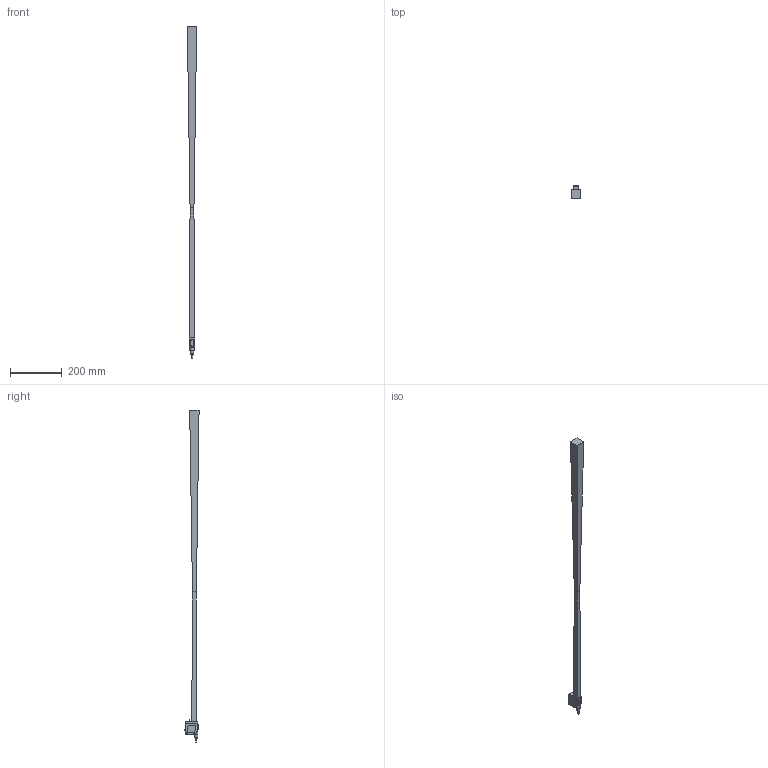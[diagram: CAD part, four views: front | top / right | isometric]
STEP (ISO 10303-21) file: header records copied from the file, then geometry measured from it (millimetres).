
FILE_DESCRIPTION(/* description */ (''),/* implementation_level */ '2;1');
FILE_NAME(/* name */ 'C:\Temp\Publisher-Output\623-11004_FT 55-RH-NS-K4.stp',/* time_stamp */ '2022-07-27T00:01:13+02:00',/* author */ ('Sandra.Stahl'),/* organization */ (''),/* preprocessor_version */ 'ST-DEVELOPER v18.1',/* originating_system */ 'Autodesk Inventor 2022',/* authorisation */ '');
FILE_SCHEMA (('AUTOMOTIVE_DESIGN { 1 0 10303 214 3 1 1 }'));
Length unit declared in the file: millimetre
Products named in the file (1): GH-ENG-0037336_Vereinfachen_1
Bounding box: 36 x 54.4 x 1277.3 mm (x, y, z)
Volume: 688494.7 mm3; surface area: 119245.4 mm2
Topology: 5 solids, 5 shells, 236 faces, 565 edges, 348 vertices
Faces by surface type: plane 146, cylinder 51, bspline 20, cone 11, sphere 6, torus 2
Full cylindrical faces by diameter (mm): 1 x1, 4.3 x1, 5 x2, 6.413 x1, 8.1 x1, 8.3 x1, 12.4 x1, 16 x1
Entity records: 7638 total; most frequent: CARTESIAN_POINT 2243, ORIENTED_EDGE 1116, DIRECTION 1048, EDGE_CURVE 558, LINE 382, VECTOR 382, VERTEX_POINT 347, AXIS2_PLACEMENT_3D 333
